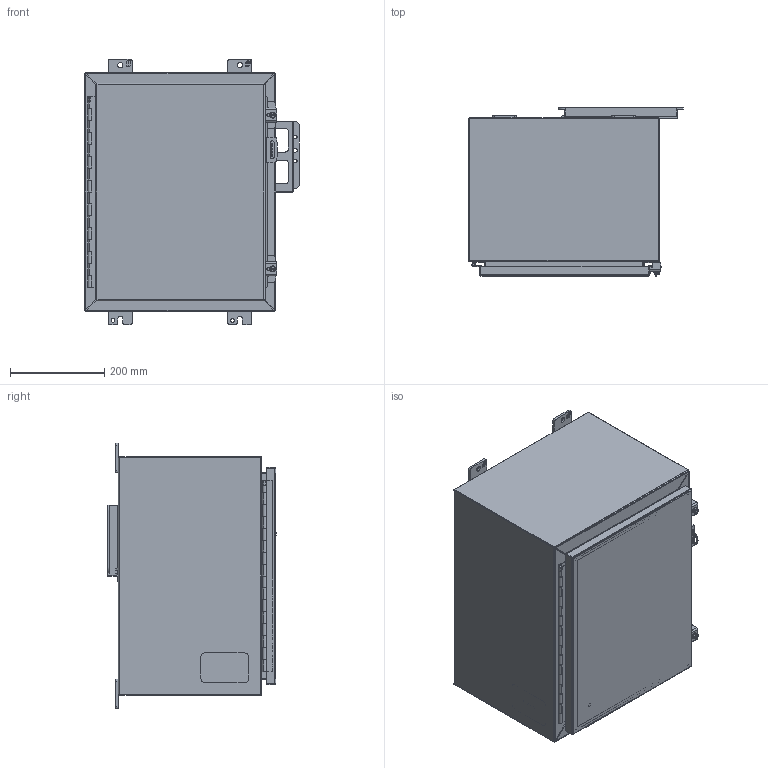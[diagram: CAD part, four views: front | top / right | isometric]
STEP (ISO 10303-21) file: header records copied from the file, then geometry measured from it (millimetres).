
FILE_DESCRIPTION(/* description */ ('Unknown'),/* implementation_level */ '2;1');
FILE_NAME(/* name */ '1418C12LP',/* time_stamp */ '2026-02-20T16:28:49-05:00',/* author */ ('Unknown'),/* organization */ ('Unknown'),/* preprocessor_version */ 'ST-DEVELOPER v18.104',/* originating_system */ 'Solid Edge',/* authorisation */ 'Unknown');
FILE_SCHEMA (('AUTOMOTIVE_DESIGN {1 0 10303 214 3 1 1}'));
Length unit declared in the file: millimetre
Products named in the file (31): 1418C12LP; STD26094; KIT90518; WAF25059; NTS166105; LAB30005; STD21878; COM42780; HNG10620-16P; HNG10620-16B; COM40153-1; PNT11078; COM71780-6; COM40153-2; HNG10620-16C; COM70219_oa_0; COM48471; FET07710; AKT90223; SPR20265; SCC19011; WAF25035; COM42667; BUL10020; QLB30109; PKT99; COM48507; KIT90256; NTS165305; NTS16535
Assembly tree (42 placements, depth 3):
  1418C12LP
    STD26094  x4
    KIT90518
      WAF25059
      NTS166105
      LAB30005
    STD21878
    COM42780  x2
    HNG10620-16P
    HNG10620-16B
    COM40153-1
    PNT11078
    COM71780-6
      COM40153-2
      HNG10620-16C
      COM71780-6
      STD21878
      COM70219_oa_0
      PNT11078
    COM48471
    FET07710  x4
    AKT90223  x2
      SPR20265
      SCC19011
      WAF25035
      COM42667
    BUL10020
    QLB30109
    PKT99
    COM48507  x2
    KIT90256
      LAB30005
      NTS165305
      NTS16535
Bounding box: 457.2 x 358.77 x 565.15 mm (x, y, z)
Volume: 2261044.6 mm3; surface area: 2416663.9 mm2
Topology: 36 solids, 37 shells, 1153 faces, 2963 edges, 1918 vertices
Faces by surface type: plane 754, cylinder 294, bspline 57, cone 26, torus 20, sphere 2
Full cylindrical faces by diameter (mm): 3.175 x1, 4.763 x1, 4.976 x1, 5.41 x2, 6.198 x2, 6.35 x3, 6.731 x2, 7.137 x2, 7.805 x1, 7.938 x4, 8.382 x4, 9.525 x4, 9.906 x2, 11.113 x4, 11.303 x1, 12.7 x2, 16.51 x4, 25.4 x1, 88.9 x1
Entity records: 27700 total; most frequent: CARTESIAN_POINT 7611, ORIENTED_EDGE 4004, DIRECTION 3773, EDGE_CURVE 2002, LINE 1323, VECTOR 1323, VERTEX_POINT 1309, AXIS2_PLACEMENT_3D 1225
